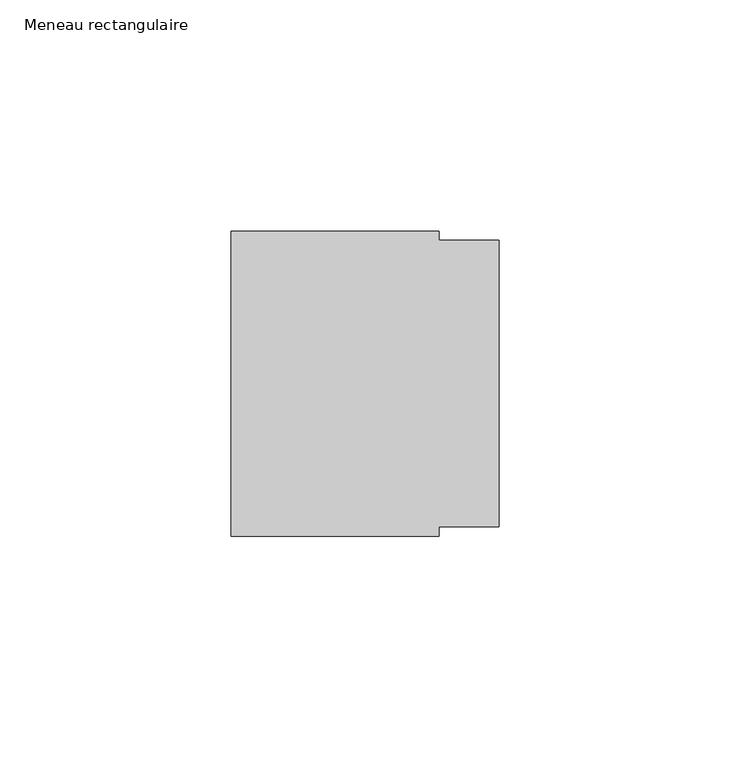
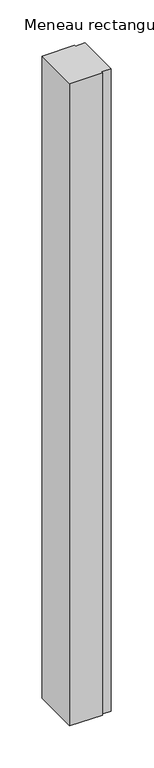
"""IFC4 building model written with IfcOpenShell, lengths in millimetres: member geometry, Meneau rectangulaire : LISSERIE_SOL 85-KLS00-P80-RE58XC."""

from ifc_helpers import new_model, si_unit, frame, origin, place, context, project, spatial, polyline, outline, extrude, source, transform, mapped, element, save


def meneau_rectangulaire_51a0963e(model_context):
    return source(origin(), model_context, "Body", "SweptSolid", [
        extrude(outline(polyline([(-13.0, 33.0), (-13.0, 31.0), (0.0, 31.0), (0.0, -31.0), (-13.0, -31.0), (-13.0, -33.0), (-58.0, -33.0), (-58.0, 33.0), (-13.0, 33.0)])), frame((0.0, 0.0, -932.5), z_axis=(0.0, 0.0, 1.0), x_axis=(1.0, 0.0, 0.0)), (0.0, 0.0, 1.0), 932.5),
    ])


if __name__ == "__main__":
    model = new_model("IFC4")
    model_context = context("Model", 3, world=origin())
    ifc_project = project(units=[si_unit("LENGTHUNIT", "METRE", prefix="MILLI")], contexts=[model_context])
    site = spatial("IfcSite", under=ifc_project)
    building = spatial("IfcBuilding", under=site)
    placement = place(None, origin())
    meneau_rectangulaire_shape = meneau_rectangulaire_51a0963e(model_context)
    element("IfcMember", 1, ObjectType="Meneau rectangulaire : LISSERIE_SOL 85-KLS00-P80-RE58XC", at=placement, inside=building, context=model_context, shape_type="MappedRepresentation", body=[
        mapped(meneau_rectangulaire_shape, transform((0.0, 0.0, 0.0), x_axis=(1.0, 0.0, 0.0), y_axis=(0.0, 1.0, 0.0), z_axis=(0.0, 0.0, 1.0))),
    ])
    save(model, "model.ifc")
